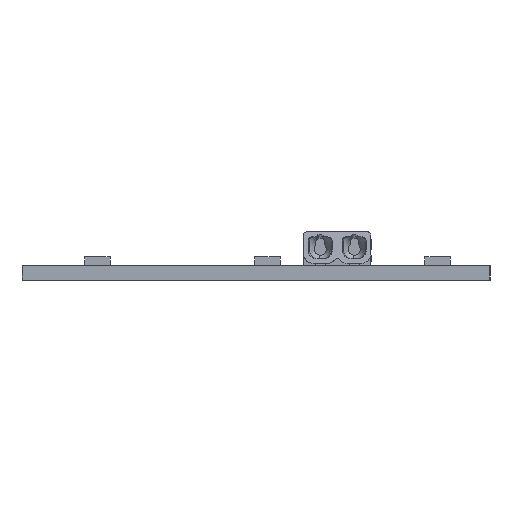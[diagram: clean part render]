
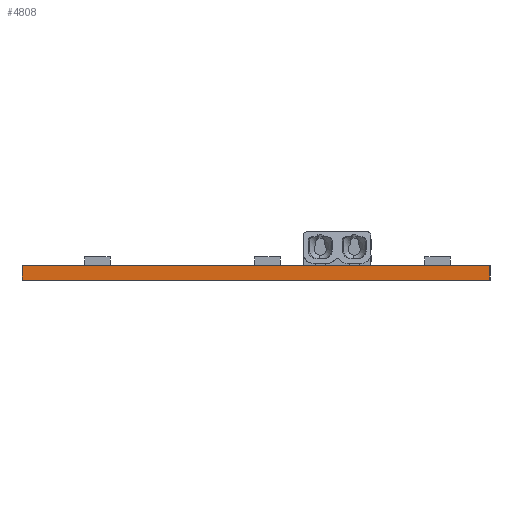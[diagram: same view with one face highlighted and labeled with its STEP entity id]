
A CAD part, left-side view. The second image highlights one B-rep face of the part: STEP entity #4808.
In plain terms, the highlighted planar face has unit normal (-1, 0, 0).
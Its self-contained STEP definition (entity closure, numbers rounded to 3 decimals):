
#4752=CARTESIAN_POINT('',(-140.0,-27.5,1.75));
#4753=VERTEX_POINT('',#4752);
#4760=CARTESIAN_POINT('',(-140.0,-27.5,0.0));
#4761=VERTEX_POINT('',#4760);
#4762=CARTESIAN_POINT('',(-140.0,-27.5,0.0));
#4763=DIRECTION('',(0.0,0.0,1.0));
#4764=VECTOR('',#4763,1.75);
#4765=LINE('',#4762,#4764);
#4766=EDGE_CURVE('',#4761,#4753,#4765,.T.);
#4778=CARTESIAN_POINT('',(-140.0,-27.5,0.0));
#4779=DIRECTION('',(-1.0,0.0,0.0));
#4780=DIRECTION('',(0.0,0.0,1.0));
#4781=AXIS2_PLACEMENT_3D('',#4778,#4779,#4780);
#4782=PLANE('',#4781);
#4783=CARTESIAN_POINT('',(-140.0,27.5,1.75));
#4784=VERTEX_POINT('',#4783);
#4785=CARTESIAN_POINT('',(-140.0,-27.5,1.75));
#4786=DIRECTION('',(0.0,1.0,0.0));
#4787=VECTOR('',#4786,55.);
#4788=LINE('',#4785,#4787);
#4789=EDGE_CURVE('',#4753,#4784,#4788,.T.);
#4790=ORIENTED_EDGE('',*,*,#4789,.T.);
#4791=CARTESIAN_POINT('',(-140.0,27.5,0.0));
#4792=VERTEX_POINT('',#4791);
#4793=CARTESIAN_POINT('',(-140.0,27.5,0.0));
#4794=DIRECTION('',(0.0,0.0,1.0));
#4795=VECTOR('',#4794,1.75);
#4796=LINE('',#4793,#4795);
#4797=EDGE_CURVE('',#4792,#4784,#4796,.T.);
#4798=ORIENTED_EDGE('',*,*,#4797,.F.);
#4799=CARTESIAN_POINT('',(-140.0,-27.5,0.0));
#4800=DIRECTION('',(0.0,1.0,0.0));
#4801=VECTOR('',#4800,55.);
#4802=LINE('',#4799,#4801);
#4803=EDGE_CURVE('',#4761,#4792,#4802,.T.);
#4804=ORIENTED_EDGE('',*,*,#4803,.F.);
#4805=ORIENTED_EDGE('',*,*,#4766,.T.);
#4806=EDGE_LOOP('',(#4790,#4798,#4804,#4805));
#4807=FACE_OUTER_BOUND('',#4806,.T.);
#4808=ADVANCED_FACE('',(#4807),#4782,.T.);
